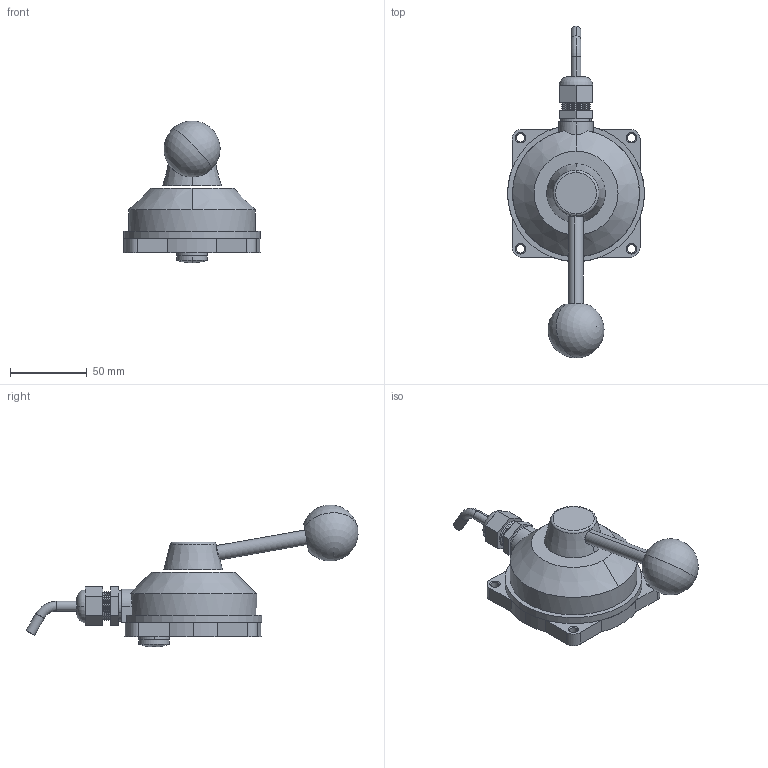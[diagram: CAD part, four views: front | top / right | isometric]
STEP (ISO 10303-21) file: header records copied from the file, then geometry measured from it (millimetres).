
FILE_DESCRIPTION (( 'STEP AP214' ), '1' );
FILE_NAME ('7170-C1.STEP', '2019-02-04T22:37:09', ( '' ), ( '' ), 'SwSTEP 2.0', 'SolidWorks 2017', '' );
FILE_SCHEMA (( 'AUTOMOTIVE_DESIGN' ));
Length unit declared in the file: inch
Products named in the file (1): 7170-C1
Bounding box: 88.86 x 215.7 x 92.12 mm (x, y, z)
Surface area: 43230 mm2 (no closed solid volume)
Topology: 0 solids, 14 shells, 299 faces, 798 edges, 513 vertices
Faces by surface type: plane 109, cylinder 86, cone 50, torus 20, sphere 17, bspline 17
Entity records: 14204 total; most frequent: CARTESIAN_POINT 3112, DIRECTION 1525, ORIENTED_EDGE 1404, EDGE_CURVE 793, AXIS2_PLACEMENT_3D 571, VERTEX_POINT 510, LINE 383, VECTOR 383
